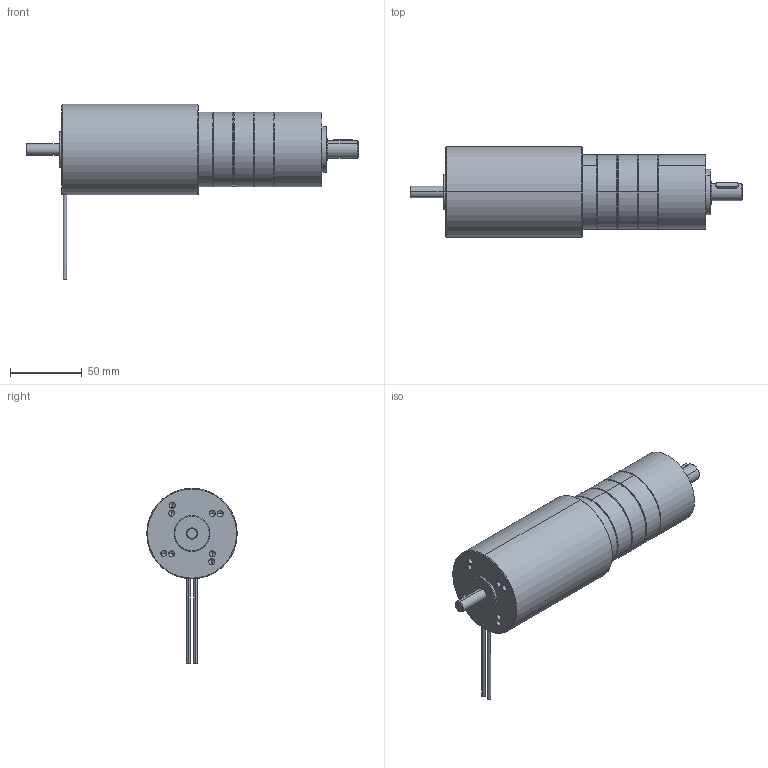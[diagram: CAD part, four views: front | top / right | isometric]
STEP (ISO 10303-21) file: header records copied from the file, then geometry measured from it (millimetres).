
FILE_DESCRIPTION (( 'STEP AP214' ), '1' );
FILE_NAME ('1-17-063-2xx_PM52-3st.STEP', '2020-11-23T11:11:07', ( '' ), ( '' ), 'SwSTEP 2.0', 'SolidWorks 2019', '' );
FILE_SCHEMA (( 'AUTOMOTIVE_DESIGN' ));
Length unit declared in the file: millimetre
Products named in the file (4): 1-17-063-2xx_PM52-3st; Motor bulher 1.17.063.202 ; 7201574_Part; PM52 - 3etages
Assembly tree (3 placements, depth 2):
  1-17-063-2xx_PM52-3st
    Motor bulher 1.17.063.202 
    7201574_Part
    PM52 - 3etages
Bounding box: 231 x 63 x 122.05 mm (x, y, z)
Volume: 319514.3 mm3; surface area: 107032.4 mm2
Topology: 2 solids, 43 shells, 1230 faces, 3245 edges, 2097 vertices
Faces by surface type: cylinder 622, plane 427, cone 133, bspline 48
Entity records: 52648 total; most frequent: CARTESIAN_POINT 8201, DIRECTION 6964, ORIENTED_EDGE 6354, EDGE_CURVE 3203, AXIS2_PLACEMENT_3D 2628, VERTEX_POINT 2097, VECTOR 1708, LINE 1708
